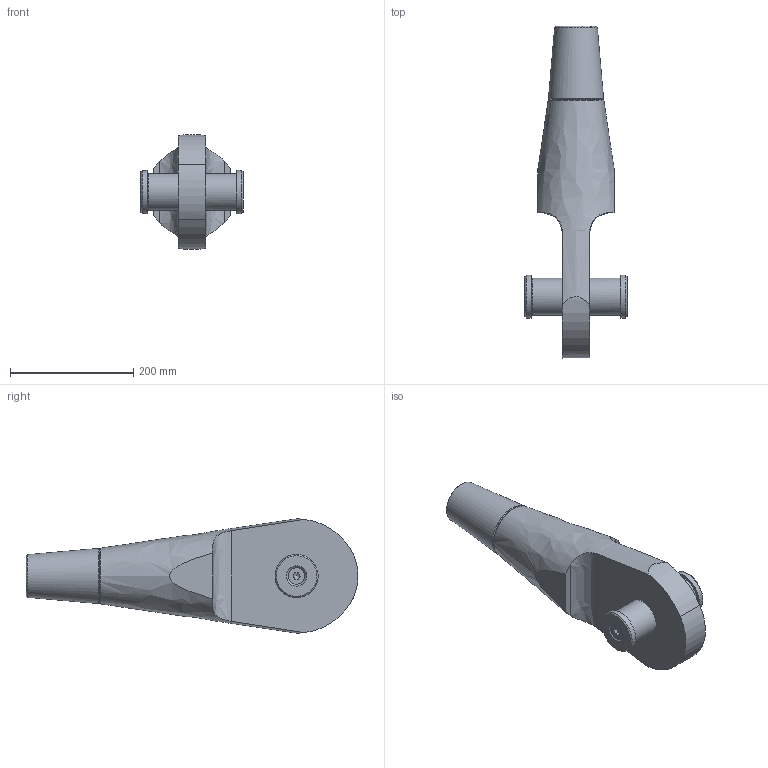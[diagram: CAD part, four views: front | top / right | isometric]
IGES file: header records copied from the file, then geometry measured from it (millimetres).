
Global section: file name: 520-060-OES; native system: Autodesk Inventor 2016; preprocessor: unknown; author: Administrator; date: 20200626.103705; units: centimetre
Bounding box: 166 x 539.26 x 185.65 mm (x, y, z)
Volume: 4371434.2 mm3; surface area: 270778.2 mm2
Topology: 2 solids, 4 shells, 49 faces, 120 edges, 82 vertices
Faces by surface type: bspline 49
